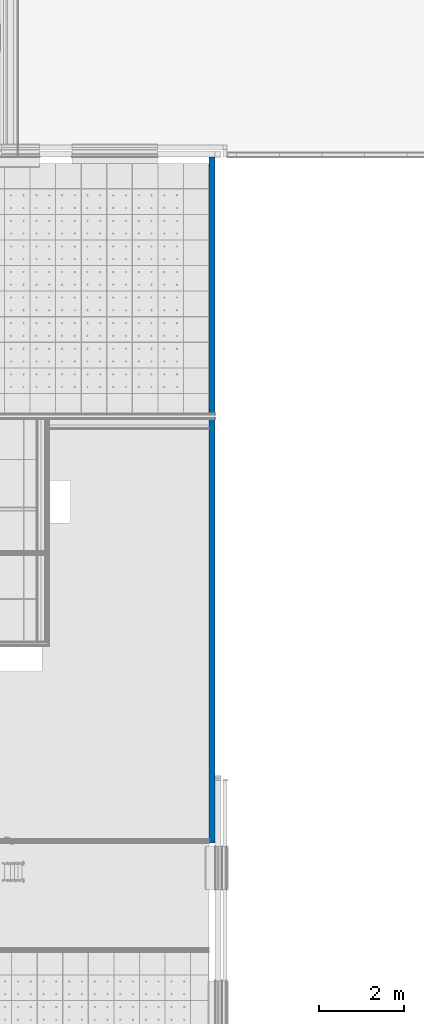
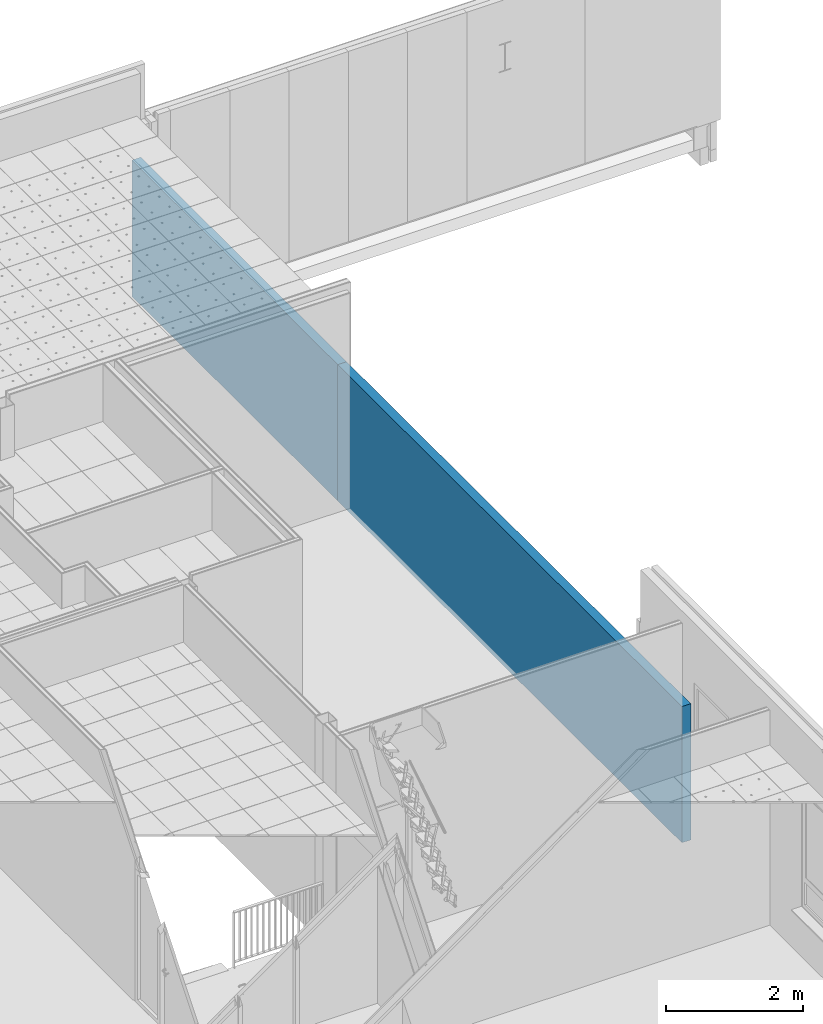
# One storey, part 37 of 321: 2 walls.
"""IFC2X3 building model written with IfcOpenShell, lengths in millimetres."""

from ifc_helpers import new_model, entity, si_unit, converted_unit, derived_unit, money_unit, direction, frame, origin_with_axes, place, context, subcontext, project, spatial, faceted_brep, material, type_object, element, save


model = new_model("IFC2X3")

# Units and contexts
model_context = context("Model", 3, precision=0.01, world=origin_with_axes(), true_north=direction((0.0, 1.0)))
plan_context = context("Plan", 3, precision=0.01, world=origin_with_axes(), true_north=direction((0.0, 1.0)))
body_context = subcontext(model_context, "Body", "Model", "MODEL_VIEW")
ifc_project = project(units=[si_unit("LENGTHUNIT", "METRE", prefix="MILLI"), si_unit("AREAUNIT", "SQUARE_METRE"), si_unit("VOLUMEUNIT", "CUBIC_METRE"), converted_unit("PLANEANGLEUNIT", "DEGREE", entity("IfcPlaneAngleMeasure", 0.0174532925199), si_unit("PLANEANGLEUNIT", "RADIAN"), dimensions=[0, 0, 0, 0, 0, 0, 0]), money_unit("EUR"), converted_unit("TIMEUNIT", "Year", entity("IfcTimeMeasure", 31556926.0), si_unit("TIMEUNIT", "SECOND"), dimensions=[0, 0, 1, 0, 0, 0, 0]), si_unit("MASSUNIT", "GRAM", prefix="KILO"), si_unit("THERMODYNAMICTEMPERATUREUNIT", "DEGREE_CELSIUS"), si_unit("LUMINOUSINTENSITYUNIT", "LUMEN"), si_unit("ENERGYUNIT", "JOULE", prefix="MEGA"), derived_unit("THERMALCONDUCTANCEUNIT", [(si_unit("POWERUNIT", "WATT"), 1), (si_unit("LENGTHUNIT", "METRE"), -1), (si_unit("THERMODYNAMICTEMPERATUREUNIT", "KELVIN"), -1)]), derived_unit("SPECIFICHEATCAPACITYUNIT", [(si_unit("ENERGYUNIT", "JOULE"), 1), (si_unit("MASSUNIT", "GRAM", prefix="KILO"), -1), (si_unit("THERMODYNAMICTEMPERATUREUNIT", "KELVIN"), -1)]), derived_unit("MASSDENSITYUNIT", [(si_unit("MASSUNIT", "GRAM", prefix="KILO"), 1), (si_unit("VOLUMEUNIT", "CUBIC_METRE"), -1)])], contexts=[model_context, plan_context])

# Site, building, storey
site_placement = place(None, origin_with_axes())
site = spatial("IfcSite", under=ifc_project, at=site_placement, Name="Fortuinstraat Woensdrecht", CompositionType="ELEMENT")
building_placement = place(site_placement, origin_with_axes())
building = spatial("IfcBuilding", under=site, at=building_placement, Name="IKC Fortuna", CompositionType="ELEMENT")
storey_placement = place(building_placement, frame((0.0, 0.0, 4000.0), z_axis=(0.0, 0.0, 1.0), x_axis=(1.0, 0.0, 0.0)))
storey = spatial("IfcBuildingStorey", under=building, at=storey_placement, Name="01 eerste verdieping", CompositionType="ELEMENT", Elevation=4000.0)

# Walls
ifc_material = material(Name="Steen - Kalkzandsteen C")
wall_type = type_object("IfcWallType", Name="Steen - Kalkzandsteen C 150", PredefinedType="NOTDEFINED")
wall_1_placement = place(storey_placement, frame((34833.4270571, 19410.4342267, -90.0), z_axis=(0.0, 0.0, 1.0), x_axis=(0.0, 1.0, 0.0)))
element("IfcWall", 1, at=wall_1_placement, inside=storey, type_object=wall_type, material=ifc_material, Name="22_Wand_KZST", context=body_context, shape_type="Brep", body=[
    faceted_brep([(0.0, 150.0, 2432.10464261), (0.0, 0.0, 2432.10464261), (10064.3624016, 0.0, 2432.10464261), (10064.3624016, 150.0, 2432.10464261), (0.0, 150.0, 0.0), (0.0, 0.0, 0.0), (10064.3624016, 0.0, 0.0), (10064.3624016, 150.0, 0.0)], [[[0, 1, 2, 3]], [[4, 5, 1, 0]], [[1, 5, 6, 2]], [[7, 3, 2, 6]], [[4, 0, 3, 7]], [[5, 4, 7, 6]]]),
])
wall_2_placement = place(storey_placement, frame((34833.4270571, 29474.7966283, -90.0), z_axis=(0.0, 0.0, 1.0), x_axis=(0.0, 1.0, 0.0)))
element("IfcWall", 2, at=wall_2_placement, inside=storey, type_object=wall_type, material=ifc_material, Name="22_Wand_KZST", context=body_context, shape_type="Brep", body=[
    faceted_brep([(0.0, 0.0, 0.0), (6021.5, 0.0, 0.0), (6021.5, 0.0, 2432.10464261), (0.0, 0.0, 2432.10464261), (0.0, 150.0, 0.0), (6021.5, 150.0, 0.0), (6021.5, 150.0, 2432.10464261), (0.0, 150.0, 2432.10464261)], [[[0, 1, 2, 3]], [[4, 5, 1, 0]], [[5, 6, 2, 1]], [[3, 2, 6, 7]], [[7, 4, 0, 3]], [[7, 6, 5, 4]]]),
])

save(model, "model.ifc")
